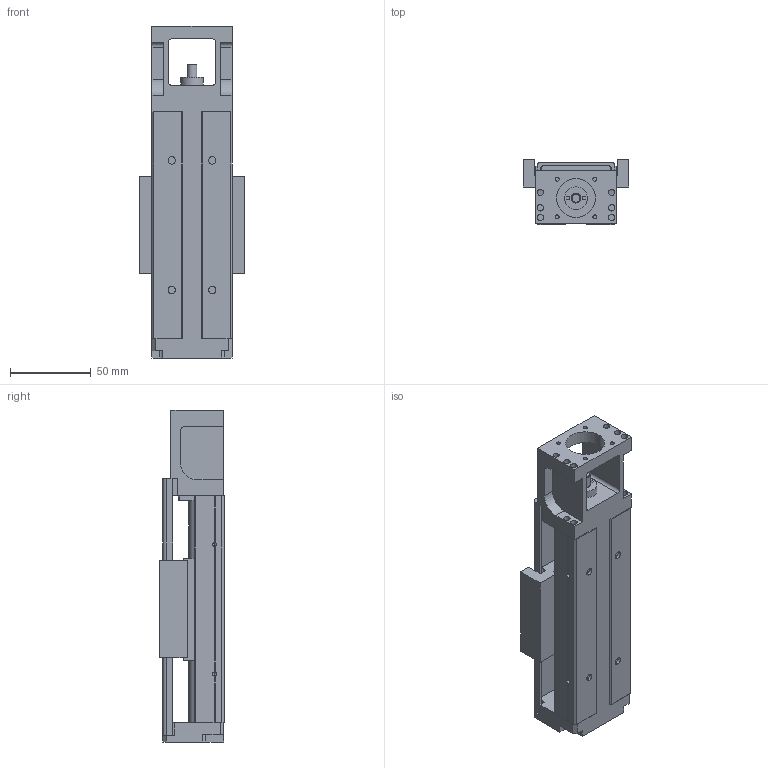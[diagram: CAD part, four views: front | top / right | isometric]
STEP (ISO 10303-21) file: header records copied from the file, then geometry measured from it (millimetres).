
FILE_DESCRIPTION (( 'STEP AP203' ), '1' );
FILE_NAME ('GSX50C-50-LL1205-P7.STEP', '2013-11-02T01:45:17', ( '微软用户' ), ( '微软中国' ), 'SwSTEP 2.0', 'SolidWorks 2010', '' );
FILE_SCHEMA (( 'CONFIG_CONTROL_DESIGN' ));
Length unit declared in the file: millimetre
Products named in the file (1): GSX50C-50-LL1205-P7
Bounding box: 65 x 40 x 205 mm (x, y, z)
Volume: 230906.4 mm3; surface area: 83858.5 mm2
Topology: 3 solids, 8 shells, 370 faces, 963 edges, 604 vertices
Faces by surface type: plane 170, cylinder 156, cone 44
Entity records: 11230 total; most frequent: CARTESIAN_POINT 1970, DIRECTION 1969, ORIENTED_EDGE 1846, EDGE_CURVE 923, AXIS2_PLACEMENT_3D 691, VERTEX_POINT 604, LINE 587, VECTOR 587
